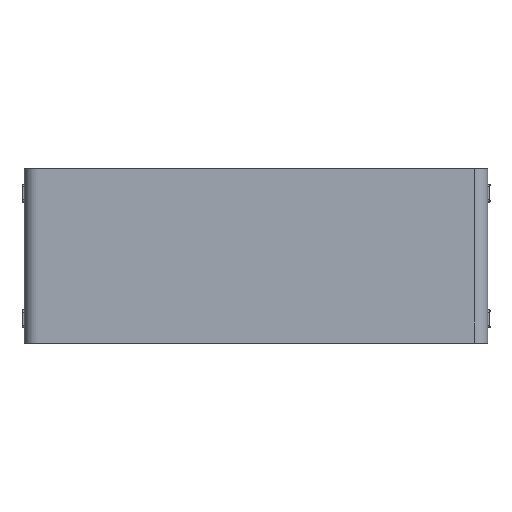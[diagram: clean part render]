
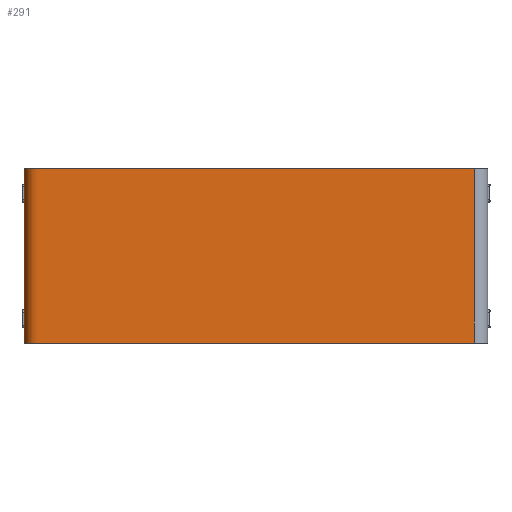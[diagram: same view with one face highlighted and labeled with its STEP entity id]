
A CAD part, top view. The second image highlights one B-rep face of the part: STEP entity #291.
In plain terms, the highlighted free-form (B-spline) face has degree [2, 1] with [7, 2] control points.
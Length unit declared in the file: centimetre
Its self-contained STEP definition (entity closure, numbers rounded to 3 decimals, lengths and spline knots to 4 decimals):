
#28=(
BOUNDED_SURFACE()
B_SPLINE_SURFACE(2,1,((#3606,#3607),(#3608,#3609),(#3610,#3611),(#3612,#3613),
(#3614,#3615),(#3616,#3617),(#3618,#3619)),.UNSPECIFIED.,.F.,.F.,.F.)
B_SPLINE_SURFACE_WITH_KNOTS((3,2,2,3),(2,2),(-125.854,-106.854,
-102.927,-22.927),(0.,32.),.UNSPECIFIED.)
GEOMETRIC_REPRESENTATION_ITEM()
RATIONAL_B_SPLINE_SURFACE(((1.,1.),(1.,1.),(1.,1.),(0.707,0.707),
(1.,1.),(1.,1.),(1.,1.)))
REPRESENTATION_ITEM($)
SURFACE()
);
#83=(
BOUNDED_CURVE()
B_SPLINE_CURVE(2,(#3506,#3507,#3508,#3509,#3510,#3511,#3512),.UNSPECIFIED.,
.F.,.F.)
B_SPLINE_CURVE_WITH_KNOTS((3,2,2,3),(22.927,102.927,106.854,
125.854),.UNSPECIFIED.)
CURVE()
GEOMETRIC_REPRESENTATION_ITEM()
RATIONAL_B_SPLINE_CURVE((1.,1.,1.,0.707,1.,1.,1.))
REPRESENTATION_ITEM($)
);
#84=(
BOUNDED_CURVE()
B_SPLINE_CURVE(2,(#3515,#3516,#3517,#3518,#3519,#3520,#3521),.UNSPECIFIED.,
.F.,.F.)
B_SPLINE_CURVE_WITH_KNOTS((3,2,2,3),(22.927,102.927,106.854,
125.854),.UNSPECIFIED.)
CURVE()
GEOMETRIC_REPRESENTATION_ITEM()
RATIONAL_B_SPLINE_CURVE((1.,1.,1.,0.707,1.,1.,1.))
REPRESENTATION_ITEM($)
);
#291=ADVANCED_FACE($,(#475),#28,.T.);
#475=FACE_OUTER_BOUND($,#659,.T.);
#659=EDGE_LOOP($,(#1020,#1021,#1022,#1023));
#1020=ORIENTED_EDGE($,*,*,#1747,.F.);
#1021=ORIENTED_EDGE($,*,*,#1748,.T.);
#1022=ORIENTED_EDGE($,*,*,#1749,.T.);
#1023=ORIENTED_EDGE($,*,*,#1761,.F.);
#1747=EDGE_CURVE($,#2140,#2145,#83,.T.);
#1748=EDGE_CURVE($,#2140,#2141,#2573,.T.);
#1749=EDGE_CURVE($,#2141,#2149,#84,.T.);
#1761=EDGE_CURVE($,#2145,#2149,#2581,.T.);
#2140=VERTEX_POINT($,#3620);
#2141=VERTEX_POINT($,#3621);
#2145=VERTEX_POINT($,#3625);
#2149=VERTEX_POINT($,#3629);
#2573=B_SPLINE_CURVE_WITH_KNOTS($,1,(#3513,#3514),.UNSPECIFIED.,.F.,.F.,
(2,2),(0.,32.),.UNSPECIFIED.);
#2581=B_SPLINE_CURVE_WITH_KNOTS($,1,(#3568,#3569),.UNSPECIFIED.,.F.,.F.,
(2,2),(0.,32.),.UNSPECIFIED.);
#3506=CARTESIAN_POINT($,(84.7046,0.,55.1359));
#3507=CARTESIAN_POINT($,(44.7046,0.,55.1359));
#3508=CARTESIAN_POINT($,(4.7046,0.,55.1359));
#3509=CARTESIAN_POINT($,(2.2046,0.,55.1359));
#3510=CARTESIAN_POINT($,(2.2046,0.,52.6359));
#3511=CARTESIAN_POINT($,(2.2046,0.,43.1359));
#3512=CARTESIAN_POINT($,(2.2046,0.,33.6359));
#3513=CARTESIAN_POINT($,(84.7046,0.,55.1359));
#3514=CARTESIAN_POINT($,(84.7046,32.,55.1359));
#3515=CARTESIAN_POINT($,(84.7046,32.,55.1359));
#3516=CARTESIAN_POINT($,(44.7046,32.,55.1359));
#3517=CARTESIAN_POINT($,(4.7046,32.,55.1359));
#3518=CARTESIAN_POINT($,(2.2046,32.,55.1359));
#3519=CARTESIAN_POINT($,(2.2046,32.,52.6359));
#3520=CARTESIAN_POINT($,(2.2046,32.,43.1359));
#3521=CARTESIAN_POINT($,(2.2046,32.,33.6359));
#3568=CARTESIAN_POINT($,(2.2046,0.,33.6359));
#3569=CARTESIAN_POINT($,(2.2046,32.,33.6359));
#3606=CARTESIAN_POINT($,(2.2046,0.,33.6359));
#3607=CARTESIAN_POINT($,(2.2046,32.,33.6359));
#3608=CARTESIAN_POINT($,(2.2046,0.,43.1359));
#3609=CARTESIAN_POINT($,(2.2046,32.,43.1359));
#3610=CARTESIAN_POINT($,(2.2046,0.,52.6359));
#3611=CARTESIAN_POINT($,(2.2046,32.,52.6359));
#3612=CARTESIAN_POINT($,(2.2046,0.,55.1359));
#3613=CARTESIAN_POINT($,(2.2046,32.,55.1359));
#3614=CARTESIAN_POINT($,(4.7046,0.,55.1359));
#3615=CARTESIAN_POINT($,(4.7046,32.,55.1359));
#3616=CARTESIAN_POINT($,(44.7046,0.,55.1359));
#3617=CARTESIAN_POINT($,(44.7046,32.,55.1359));
#3618=CARTESIAN_POINT($,(84.7046,0.,55.1359));
#3619=CARTESIAN_POINT($,(84.7046,32.,55.1359));
#3620=CARTESIAN_POINT($,(84.7046,0.,55.1359));
#3621=CARTESIAN_POINT($,(84.7046,32.,55.1359));
#3625=CARTESIAN_POINT($,(2.2046,0.,33.6359));
#3629=CARTESIAN_POINT($,(2.2046,32.,33.6359));
